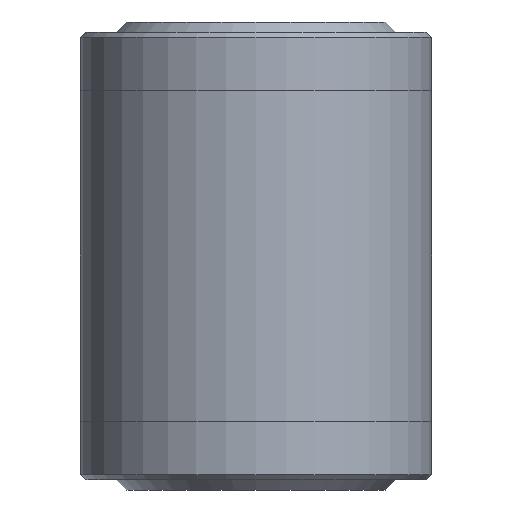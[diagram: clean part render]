
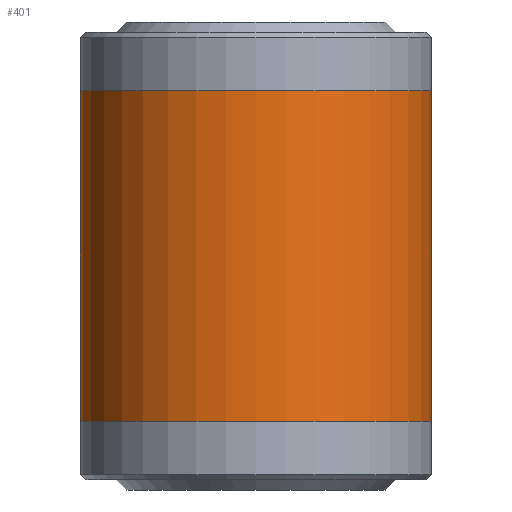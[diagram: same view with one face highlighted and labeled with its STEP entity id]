
A CAD part, front view. The second image highlights one B-rep face of the part: STEP entity #401.
In plain terms, the highlighted cylindrical face has radius 34.5 mm (diameter 69 mm), a full revolution.
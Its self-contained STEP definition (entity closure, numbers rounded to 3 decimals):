
#31=ELLIPSE('',#1534,48.79,34.5);
#32=ELLIPSE('',#1535,48.79,34.5);
#175=LINE('',#5316,#189);
#176=LINE('',#5320,#190);
#189=VECTOR('',#1868,1.);
#190=VECTOR('',#1871,1.);
#401=ADVANCED_FACE('',(#523,#524,#525),#450,.T.);
#450=CYLINDRICAL_SURFACE('',#1538,34.5);
#523=FACE_BOUND('',#666,.T.);
#524=FACE_BOUND('',#667,.T.);
#525=FACE_BOUND('',#668,.T.);
#666=EDGE_LOOP('',(#980,#981,#982,#983));
#667=EDGE_LOOP('',(#984));
#668=EDGE_LOOP('',(#985));
#980=ORIENTED_EDGE('',*,*,#1289,.T.);
#981=ORIENTED_EDGE('',*,*,#1290,.F.);
#982=ORIENTED_EDGE('',*,*,#1291,.T.);
#983=ORIENTED_EDGE('',*,*,#1292,.F.);
#984=ORIENTED_EDGE('',*,*,#1293,.F.);
#985=ORIENTED_EDGE('',*,*,#1294,.T.);
#1130=VERTEX_POINT('',#5314);
#1131=VERTEX_POINT('',#5315);
#1132=VERTEX_POINT('',#5317);
#1133=VERTEX_POINT('',#5319);
#1134=VERTEX_POINT('',#5322);
#1135=VERTEX_POINT('',#5324);
#1289=EDGE_CURVE('',#1130,#1131,#31,.T.);
#1290=EDGE_CURVE('',#1132,#1131,#175,.T.);
#1291=EDGE_CURVE('',#1132,#1133,#32,.T.);
#1292=EDGE_CURVE('',#1130,#1133,#176,.T.);
#1293=EDGE_CURVE('',#1134,#1134,#1377,.T.);
#1294=EDGE_CURVE('',#1135,#1135,#1378,.T.);
#1377=CIRCLE('',#1536,34.5);
#1378=CIRCLE('',#1537,34.5);
#1534=AXIS2_PLACEMENT_3D('',#5313,#1866,#1867);
#1535=AXIS2_PLACEMENT_3D('',#5318,#1869,#1870);
#1536=AXIS2_PLACEMENT_3D('',#5321,#1872,#1873);
#1537=AXIS2_PLACEMENT_3D('',#5323,#1874,#1875);
#1538=AXIS2_PLACEMENT_3D('',#5325,#1876,#1877);
#1866=DIRECTION('',(0.,-0.707,0.707));
#1867=DIRECTION('',(0.,0.707,0.707));
#1868=DIRECTION('',(0.,0.,1.));
#1869=DIRECTION('',(0.,-0.707,-0.707));
#1870=DIRECTION('',(0.,-0.707,0.707));
#1871=DIRECTION('',(0.,0.,-1.));
#1872=DIRECTION('',(0.,0.,1.));
#1873=DIRECTION('',(1.,0.,0.));
#1874=DIRECTION('',(0.,0.,1.));
#1875=DIRECTION('',(1.,0.,0.));
#1876=DIRECTION('',(0.,0.,1.));
#1877=DIRECTION('',(1.,0.,0.));
#5313=CARTESIAN_POINT('',(153.125,0.938,-18.));
#5314=CARTESIAN_POINT('',(166.019,32.938,14.));
#5315=CARTESIAN_POINT('',(140.231,32.938,14.));
#5316=CARTESIAN_POINT('',(140.231,32.938,-4.375));
#5317=CARTESIAN_POINT('',(140.231,32.938,-14.));
#5318=CARTESIAN_POINT('',(153.125,0.938,18.));
#5319=CARTESIAN_POINT('',(166.019,32.938,-14.));
#5320=CARTESIAN_POINT('',(166.019,32.938,-4.375));
#5321=CARTESIAN_POINT('',(153.125,0.938,32.5));
#5322=CARTESIAN_POINT('',(187.625,0.938,32.5));
#5323=CARTESIAN_POINT('',(153.125,0.938,-32.5));
#5324=CARTESIAN_POINT('',(187.625,0.938,-32.5));
#5325=CARTESIAN_POINT('',(153.125,0.938,-4.375));
